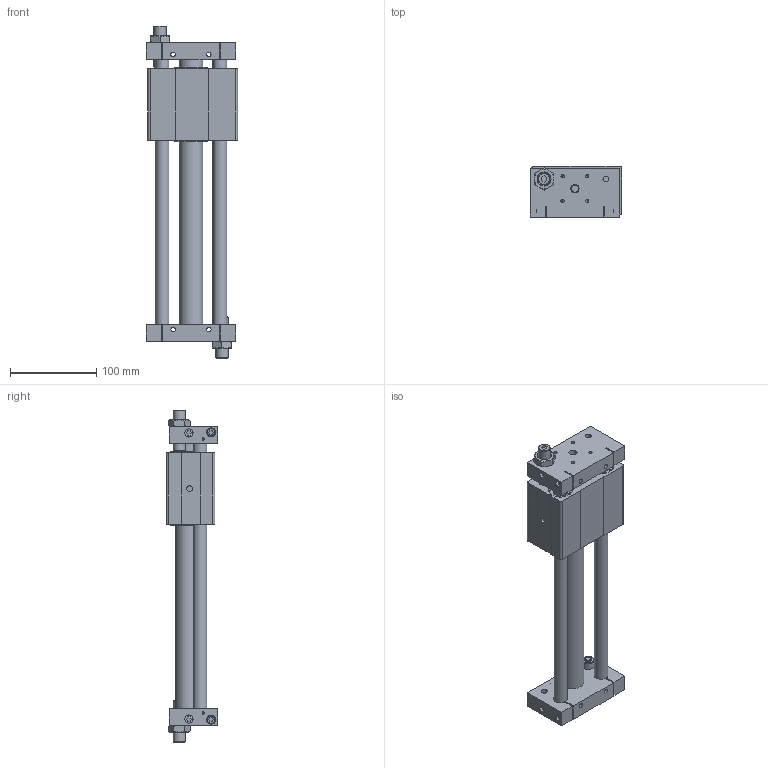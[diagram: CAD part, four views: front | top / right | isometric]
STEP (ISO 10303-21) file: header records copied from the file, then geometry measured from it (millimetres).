
FILE_DESCRIPTION (( 'STEP AP203' ), '1' );
FILE_NAME ('MGS100_MGS-475621-1.step', '2024-11-20T20:03:47', ( '' ), ( '' ), 'SwSTEP 2.0', 'SolidWorks 2024', '' );
FILE_SCHEMA (( 'CONFIG_CONTROL_DESIGN' ));
Length unit declared in the file: inch
Products named in the file (5): 24101057; MGS100_MGS-475621-1; tempJoin0_24109048_MGS100_MGS-475621-1; Base_MGS100_MGS-475621-1; 24101051_MGS100_MGS-475621-1_DEFAULT WEB
Assembly tree (6 placements, depth 2):
  MGS100_MGS-475621-1
    tempJoin0_24109048_MGS100_MGS-475621-1
    24101051_MGS100_MGS-475621-1_DEFAULT WEB  x2
    24101057  x2
    Base_MGS100_MGS-475621-1
Bounding box: 105.54 x 59.56 x 384.2 mm (x, y, z)
Volume: 792032.8 mm3; surface area: 219964.7 mm2
Topology: 7 solids, 14 shells, 1179 faces, 3091 edges, 2046 vertices
Faces by surface type: plane 903, cylinder 166, cone 102, torus 8
Full cylindrical faces by diameter (mm): 1.981 x8, 2.381 x4, 2.705 x4, 3.797 x16, 5.207 x4, 6.35 x8, 6.731 x1, 6.8 x2, 7.137 x1, 8.433 x6, 9.525 x8, 10.312 x4, 12.7 x2, 13.096 x4, 14.288 x2, 15.862 x2, 15.875 x4, 16.271 x2, 25.578 x2, 26.645 x2, 27.635 x1, 27.813 x2, 28.169 x4, 28.567 x6, 28.575 x2, 29.083 x3, 30.378 x4, 31.191 x2, 37.668 x3, 38.075 x4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
Entity records: 34671 total; most frequent: CARTESIAN_POINT 7334, ORIENTED_EDGE 5476, DIRECTION 5110, EDGE_CURVE 2738, LINE 1924, VECTOR 1924, VERTEX_POINT 1915, AXIS2_PLACEMENT_3D 1593
